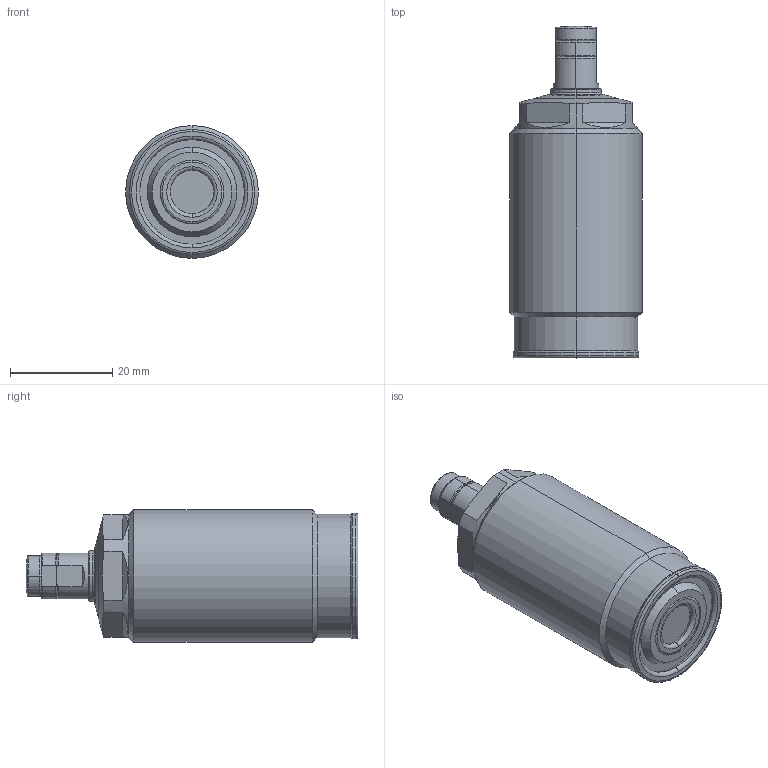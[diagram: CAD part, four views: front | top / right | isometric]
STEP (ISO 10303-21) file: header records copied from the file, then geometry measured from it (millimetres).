
FILE_DESCRIPTION(/* description */ (''),/* implementation_level */ '2;1');
FILE_NAME(/* name */ 'TNL26-M.stp',/* time_stamp */ '2023-07-04T11:23:47+08:00',/* author */ (''),/* organization */ (''),/* preprocessor_version */ 'ST-DEVELOPER v16.7',/* originating_system */ 'SIEMENS PLM Software NX 12.0',/* authorisation */ '');
FILE_SCHEMA (('AP203_CONFIGURATION_CONTROLLED_3D_DESIGN_OF_MECHANICAL_PARTS_AND_ASSEMBLIES_MIM_LF { 1 0 10303 403 2 1 2}'));
Length unit declared in the file: millimetre
Products named in the file (9): XLD-M6SP_pad; XLD-M6SP_pin; XLD-M6SP_contactbolt; XLD-M6SP_Oring; TNL26-02; TNL26-01; TNL26-05; XLDM6SP; TNL26_stp
Assembly tree (8 placements, depth 3):
  TNL26_stp
    TNL26-05
    TNL26-01
    TNL26-02
    XLDM6SP
      XLD-M6SP_Oring
      XLD-M6SP_contactbolt
      XLD-M6SP_pin
      XLD-M6SP_pad
Bounding box: 26 x 65 x 26 mm (x, y, z)
Volume: 26076.4 mm3; surface area: 7065.1 mm2
Topology: 7 solids, 7 shells, 188 faces, 419 edges, 253 vertices
Faces by surface type: cylinder 55, torus 47, plane 45, cone 37, sphere 4
Entity records: 6743 total; most frequent: CARTESIAN_POINT 1421, DIRECTION 1009, ORIENTED_EDGE 838, AXIS2_PLACEMENT_3D 439, EDGE_CURVE 419, VERTEX_POINT 253, CIRCLE 242, EDGE_LOOP 210
